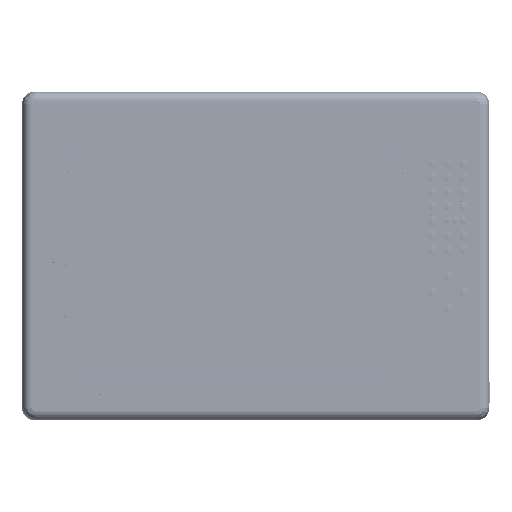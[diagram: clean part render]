
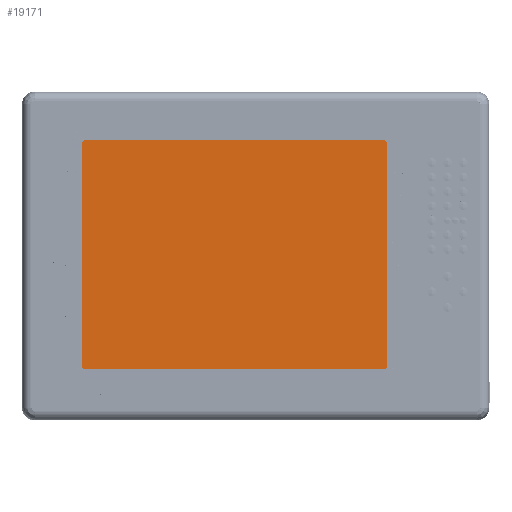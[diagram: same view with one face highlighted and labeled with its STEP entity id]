
A CAD part, top view. The second image highlights one B-rep face of the part: STEP entity #19171.
In plain terms, the highlighted planar face has unit normal (0, 0, 1).
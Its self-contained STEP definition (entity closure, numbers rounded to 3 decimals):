
#7019=CARTESIAN_POINT('',(-6.845,4.472,0.671));
#7020=CARTESIAN_POINT('',(-6.845,4.485,0.671));
#7021=CARTESIAN_POINT('',(-6.84,4.508,0.673));
#7022=CARTESIAN_POINT('',(-6.82,4.54,0.672));
#7023=CARTESIAN_POINT('',(-6.788,4.56,0.673));
#7024=CARTESIAN_POINT('',(-6.765,4.565,0.671));
#7025=CARTESIAN_POINT('',(-6.752,4.565,0.671));
#7027=CARTESIAN_POINT('',(-6.752,-4.475,0.671));
#7028=CARTESIAN_POINT('',(-6.765,-4.475,0.671));
#7029=CARTESIAN_POINT('',(-6.788,-4.47,0.673));
#7030=CARTESIAN_POINT('',(-6.82,-4.45,0.672));
#7031=CARTESIAN_POINT('',(-6.84,-4.418,0.673));
#7032=CARTESIAN_POINT('',(-6.845,-4.395,0.671));
#7033=CARTESIAN_POINT('',(-6.845,-4.382,0.671));
#7035=CARTESIAN_POINT('',(5.175,-4.382,0.671));
#7036=CARTESIAN_POINT('',(5.175,-4.395,0.671));
#7037=CARTESIAN_POINT('',(5.17,-4.418,0.673));
#7038=CARTESIAN_POINT('',(5.15,-4.45,0.672));
#7039=CARTESIAN_POINT('',(5.118,-4.47,0.673));
#7040=CARTESIAN_POINT('',(5.095,-4.475,0.671));
#7041=CARTESIAN_POINT('',(5.082,-4.475,0.671));
#7043=CARTESIAN_POINT('',(5.082,4.565,0.671));
#7044=CARTESIAN_POINT('',(5.095,4.565,0.671));
#7045=CARTESIAN_POINT('',(5.118,4.56,0.673));
#7046=CARTESIAN_POINT('',(5.15,4.54,0.672));
#7047=CARTESIAN_POINT('',(5.17,4.508,0.673));
#7048=CARTESIAN_POINT('',(5.175,4.485,0.671));
#7049=CARTESIAN_POINT('',(5.175,4.472,0.671));
#7306=DIRECTION('',(1.,0.,0.));
#7307=VECTOR('',#7306,11.834);
#7308=CARTESIAN_POINT('',(-6.752,4.565,0.671));
#7309=LINE('',#7308,#7307);
#7310=DIRECTION('',(0.,-1.,0.));
#7311=VECTOR('',#7310,8.854);
#7312=CARTESIAN_POINT('',(5.175,4.472,0.671));
#7313=LINE('',#7312,#7311);
#7314=DIRECTION('',(-1.,0.,0.));
#7315=VECTOR('',#7314,11.834);
#7316=CARTESIAN_POINT('',(5.082,-4.475,0.671));
#7317=LINE('',#7316,#7315);
#7318=DIRECTION('',(0.,1.,0.));
#7319=VECTOR('',#7318,8.854);
#7320=CARTESIAN_POINT('',(-6.845,-4.382,0.671));
#7321=LINE('',#7320,#7319);
#10421=VERTEX_POINT('',#7019);
#10422=VERTEX_POINT('',#7025);
#10423=VERTEX_POINT('',#7027);
#10424=VERTEX_POINT('',#7033);
#10425=VERTEX_POINT('',#7035);
#10426=VERTEX_POINT('',#7041);
#10427=VERTEX_POINT('',#7043);
#10428=VERTEX_POINT('',#7049);
#19156=CARTESIAN_POINT('',(-0.835,0.045,0.67));
#19157=DIRECTION('',(0.,0.,1.));
#19158=DIRECTION('',(-1.,0.,0.));
#19159=AXIS2_PLACEMENT_3D('',#19156,#19157,#19158);
#19160=PLANE('',#19159);
#19161=ORIENTED_EDGE('',*,*,#18119,.T.);
#19162=ORIENTED_EDGE('',*,*,#18133,.T.);
#19163=ORIENTED_EDGE('',*,*,#18131,.T.);
#19164=ORIENTED_EDGE('',*,*,#18129,.T.);
#19165=ORIENTED_EDGE('',*,*,#18127,.T.);
#19166=ORIENTED_EDGE('',*,*,#18125,.T.);
#19167=ORIENTED_EDGE('',*,*,#18123,.T.);
#19168=ORIENTED_EDGE('',*,*,#18121,.T.);
#19169=EDGE_LOOP('',(#19161,#19162,#19163,#19164,#19165,#19166,#19167,#19168));
#19170=FACE_OUTER_BOUND('',#19169,.F.);
#19171=ADVANCED_FACE('',(#19170),#19160,.T.);
#7026=B_SPLINE_CURVE_WITH_KNOTS('',3,(#7019,#7020,#7021,#7022,#7023,#7024,
#7025),.UNSPECIFIED.,.F.,.F.,(4,1,1,1,4),(0.,0.25,0.5,0.75,1.),
.UNSPECIFIED.);
#7034=B_SPLINE_CURVE_WITH_KNOTS('',3,(#7027,#7028,#7029,#7030,#7031,#7032,
#7033),.UNSPECIFIED.,.F.,.F.,(4,1,1,1,4),(0.,0.25,0.5,0.75,1.),
.UNSPECIFIED.);
#7042=B_SPLINE_CURVE_WITH_KNOTS('',3,(#7035,#7036,#7037,#7038,#7039,#7040,
#7041),.UNSPECIFIED.,.F.,.F.,(4,1,1,1,4),(0.,0.25,0.5,0.75,1.),
.UNSPECIFIED.);
#7050=B_SPLINE_CURVE_WITH_KNOTS('',3,(#7043,#7044,#7045,#7046,#7047,#7048,
#7049),.UNSPECIFIED.,.F.,.F.,(4,1,1,1,4),(0.,0.25,0.5,0.75,1.),
.UNSPECIFIED.);
#18119=EDGE_CURVE('',#10421,#10422,#7026,.T.);
#18121=EDGE_CURVE('',#10424,#10421,#7321,.T.);
#18123=EDGE_CURVE('',#10423,#10424,#7034,.T.);
#18125=EDGE_CURVE('',#10426,#10423,#7317,.T.);
#18127=EDGE_CURVE('',#10425,#10426,#7042,.T.);
#18129=EDGE_CURVE('',#10428,#10425,#7313,.T.);
#18131=EDGE_CURVE('',#10427,#10428,#7050,.T.);
#18133=EDGE_CURVE('',#10422,#10427,#7309,.T.);
